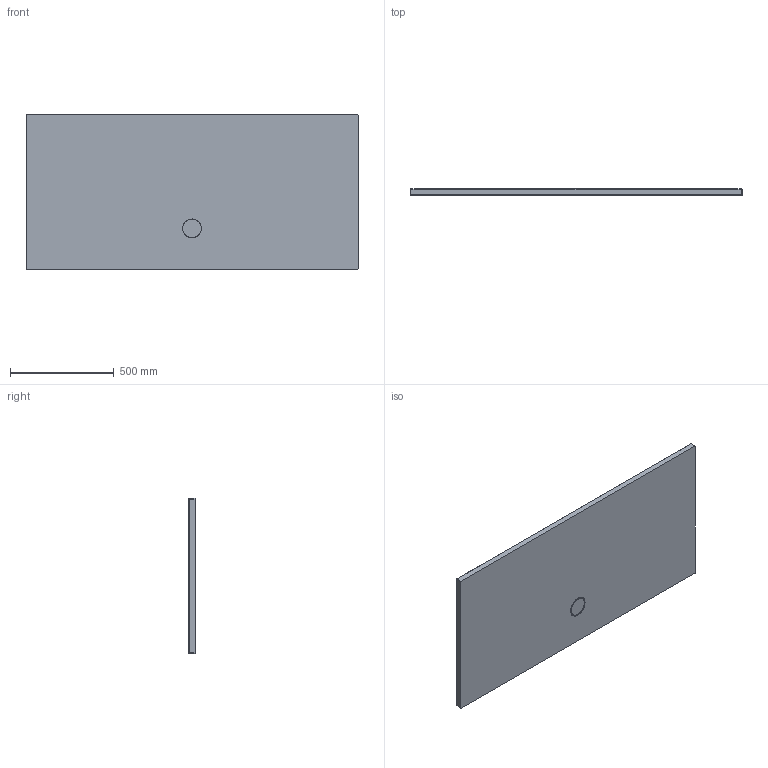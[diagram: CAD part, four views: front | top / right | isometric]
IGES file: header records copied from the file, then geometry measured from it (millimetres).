
Start section: SolidWorks IGES file using analytic representation for surfaces
Global section: file name: Y:\TKT\_PLIKI DLA ARCHITEKTÓW\02_AKRYL\BRODZIKI\seria SPACE MINERAL\IGS\B_M_75x160x1,5.IGS; native system: SolidWorks 2011; preprocessor: SolidWorks 2011; author: M.Szymanski; date: 180215.143037; units: millimetre
Bounding box: 1600 x 30 x 750 mm (x, y, z)
Surface area: 2553594.2 mm2 (no closed solid volume)
Topology: 0 solids, 0 shells, 61 faces, 737 edges, 734 vertices
Faces by surface type: bspline 39, revolution 22
